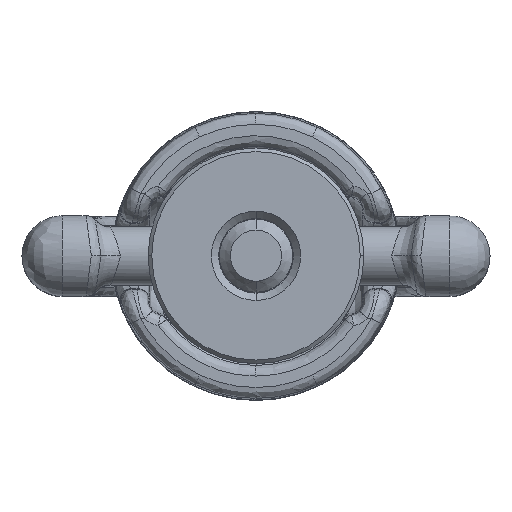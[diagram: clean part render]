
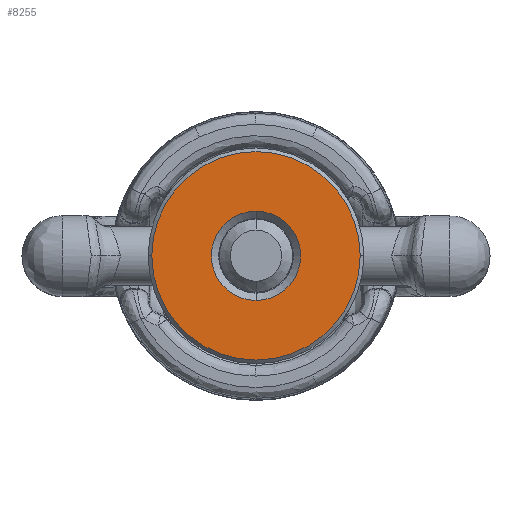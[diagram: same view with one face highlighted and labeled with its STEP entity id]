
A CAD part, top view. The second image highlights one B-rep face of the part: STEP entity #8255.
In plain terms, the highlighted planar face has unit normal (0, 0, 1) as drawn and (0, -1, 0) by its records, which use the part's own axes.
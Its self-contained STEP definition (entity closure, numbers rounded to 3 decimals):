
#7766 = VERTEX_POINT ( 'NONE', #27283 ) ;
#7768 = EDGE_CURVE ( 'NONE', #7766, #7769, #27282, .T. ) ;
#7769 = VERTEX_POINT ( 'NONE', #27277 ) ;
#7925 = VERTEX_POINT ( 'NONE', #28082 ) ;
#7961 = VERTEX_POINT ( 'NONE', #22629 ) ;
#7963 = EDGE_CURVE ( 'NONE', #7925, #7961, #22302, .T. ) ;
#8042 = EDGE_CURVE ( 'NONE', #7961, #7925, #22622, .T. ) ;
#8254 = EDGE_CURVE ( 'NONE', #7769, #7766, #21128, .T. ) ;
#8255 = ADVANCED_FACE ( 'NONE', ( #21156, #21151 ), #21150, .F. ) ;
#8256 = EDGE_LOOP ( 'NONE', ( #8405, #8406 ) ) ;
#8405 = ORIENTED_EDGE ( 'NONE', *, *, #8254, .F. ) ;
#8406 = ORIENTED_EDGE ( 'NONE', *, *, #7768, .F. ) ;
#8407 = EDGE_LOOP ( 'NONE', ( #8408, #8409 ) ) ;
#8408 = ORIENTED_EDGE ( 'NONE', *, *, #7963, .F. ) ;
#8409 = ORIENTED_EDGE ( 'NONE', *, *, #8042, .F. ) ;
#21128 = CIRCLE ( 'NONE', #21155, 6.1 ) ;
#21138 = DIRECTION ( 'NONE',  ( 0., 0., 1. ) ) ;
#21139 = DIRECTION ( 'NONE',  ( 0., 1., 0. ) ) ;
#21140 = AXIS2_PLACEMENT_3D ( 'NONE', #21149, #21139, #21138 ) ;
#21149 = CARTESIAN_POINT ( 'NONE',  ( 0., 0., 0. ) ) ;
#21150 = PLANE ( 'NONE',  #21140 ) ;
#21151 = FACE_OUTER_BOUND ( 'NONE', #8407, .T. ) ;
#21152 = DIRECTION ( 'NONE',  ( 0., 0., -1. ) ) ;
#21153 = DIRECTION ( 'NONE',  ( 0., -1., 0. ) ) ;
#21154 = CARTESIAN_POINT ( 'NONE',  ( 0., 0., 0. ) ) ;
#21155 = AXIS2_PLACEMENT_3D ( 'NONE', #21154, #21153, #21152 ) ;
#21156 = FACE_BOUND ( 'NONE', #8256, .T. ) ;
#22298 = DIRECTION ( 'NONE',  ( -1., 0., 0. ) ) ;
#22299 = DIRECTION ( 'NONE',  ( 0., 1., 0. ) ) ;
#22300 = CARTESIAN_POINT ( 'NONE',  ( 0., 0., 0. ) ) ;
#22301 = AXIS2_PLACEMENT_3D ( 'NONE', #22300, #22299, #22298 ) ;
#22302 = CIRCLE ( 'NONE', #22301, 14.25 ) ;
#22377 = CARTESIAN_POINT ( 'NONE',  ( 0., 0., 0. ) ) ;
#22618 = DIRECTION ( 'NONE',  ( -1., 0., 0. ) ) ;
#22619 = DIRECTION ( 'NONE',  ( 0., 1., 0. ) ) ;
#22621 = AXIS2_PLACEMENT_3D ( 'NONE', #22377, #22619, #22618 ) ;
#22622 = CIRCLE ( 'NONE', #22621, 14.25 ) ;
#22629 = CARTESIAN_POINT ( 'NONE',  ( 14.25, 0., 0. ) ) ;
#27277 = CARTESIAN_POINT ( 'NONE',  ( 0., 0., -6.1 ) ) ;
#27278 = DIRECTION ( 'NONE',  ( 0., 0., -1. ) ) ;
#27279 = DIRECTION ( 'NONE',  ( 0., -1., 0. ) ) ;
#27280 = CARTESIAN_POINT ( 'NONE',  ( 0., 0., 0. ) ) ;
#27281 = AXIS2_PLACEMENT_3D ( 'NONE', #27280, #27279, #27278 ) ;
#27282 = CIRCLE ( 'NONE', #27281, 6.1 ) ;
#27283 = CARTESIAN_POINT ( 'NONE',  ( 0., 0., 6.1 ) ) ;
#28082 = CARTESIAN_POINT ( 'NONE',  ( -14.25, 0., 0. ) ) ;
